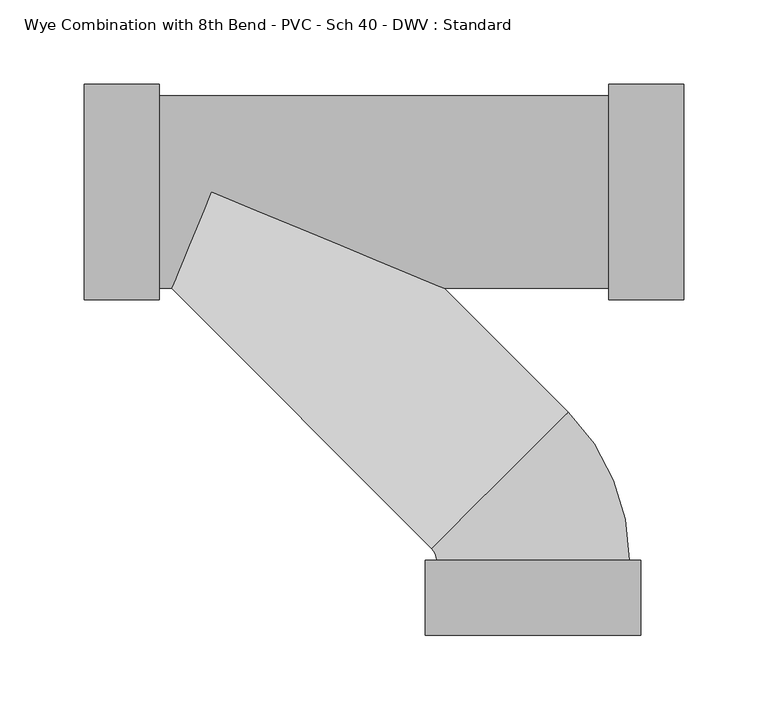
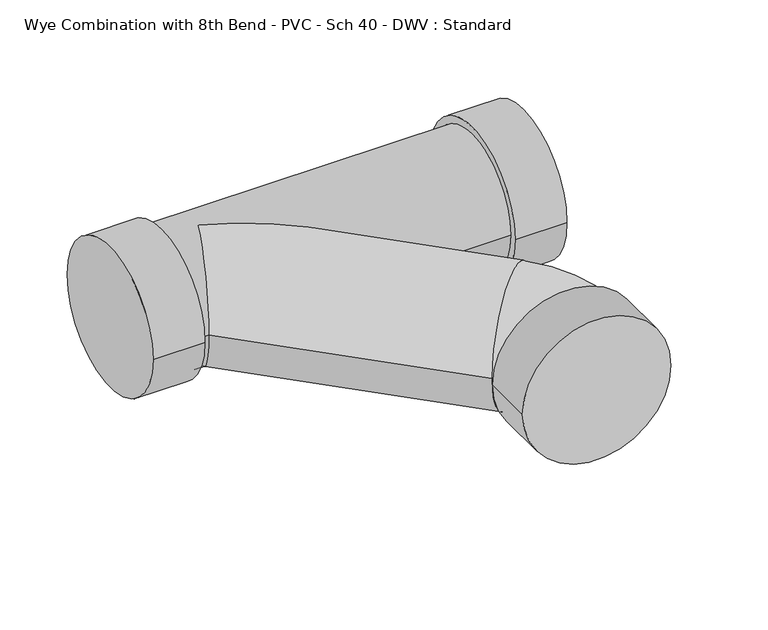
"""IFC4 building model written with IfcOpenShell, lengths in millimetres: pipe fitting geometry, Wye Combination with 8th Bend - PVC - Sch 40 - DWV : Standard."""

from ifc_helpers import new_model, si_unit, point, frame, origin, place, context, project, spatial, circle_curve, ellipse_curve, trimmed, source, transform, mapped, element, save
from ifc_brep_helpers import plane_surface, cylinder_surface, revolved_surface, advanced_brep


def wye_combination_with_8th_bend_pvc_sch_40_dwv_standard_7e54e68b(model_context):
    return source(origin(), model_context, "Body", "AdvancedBrep", [
        advanced_brep(
        [(-265.9101125, -63.754, 0.0), (-265.9101125, 63.754, 0.0), (-221.4601125, -63.754, 0.0), (-221.4601125, 63.754, 0.0), (-221.4601125, -57.15, 0.0), (-221.4601125, 57.15, 0.0), (44.8334875, 57.15, 0.0), (-214.2352808, -57.15, 0.0), (-190.5629757, 0.0, 57.15), (-52.5906706, -57.15, 0.0), (44.8334875, -57.15, 0.0), (-190.5629757, 0.0, -57.15), (44.8334875, -63.754, 0.0), (44.8334875, 63.754, 0.0), (89.2834875, -63.754, 0.0), (89.2834875, 63.754, 0.0), (-60.0117153, -211.3735655, 0.0), (-57.1475125, -218.2882512, 0.0), (57.1524875, -218.2869488, 0.0), (20.8105898, -130.5512604, 0.0), (-63.7515125, -218.2883265, 0.0), (63.7564875, -218.2868735, 0.0), (-63.751006, -262.7383265, 0.0), (63.756994, -262.7368735, 0.0)],
        [
            (0, 1, circle_curve(frame((-265.9101125, 0.0, 0.0), z_axis=(-1.0, 0.0, 0.0), x_axis=(0.0, 1.0, 0.0)), 63.754)),
            (1, 0, circle_curve(frame((-265.9101125, 0.0, 0.0), z_axis=(-1.0, 0.0, 0.0), x_axis=(0.0, 1.0, 0.0)), 63.754)),
            (2, 3, circle_curve(frame((-221.4601125, 0.0, 0.0), z_axis=(1.0, 0.0, 0.0), x_axis=(0.0, 1.0, 0.0)), 63.754)),
            (3, 2, circle_curve(frame((-221.4601125, 0.0, 0.0), z_axis=(1.0, 0.0, 0.0), x_axis=(0.0, 1.0, 0.0)), 63.754)),
            (4, 5, circle_curve(frame((-221.4601125, 0.0, 0.0), z_axis=(-1.0, 0.0, 0.0), x_axis=(0.0, 1.0, 0.0)), 57.15)),
            (5, 4, circle_curve(frame((-221.4601125, 0.0, 0.0), z_axis=(-1.0, 0.0, 0.0), x_axis=(0.0, 1.0, 0.0)), 57.15)),
            (0, 2),
            (3, 1),
            (6, 5),
            (4, 7),
            (7, 8, ellipse_curve(frame((-190.5629757, 0.0, 0.0), z_axis=(-0.9238795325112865, 0.3826834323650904, 0.0), x_axis=(-0.3826834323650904, -0.9238795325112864, 0.0)), 61.8587142, 57.15)),
            (8, 9, ellipse_curve(frame((-190.5629757, 0.0, 0.0), z_axis=(0.3826834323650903, 0.9238795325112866, 0.0), x_axis=(-0.9238795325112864, 0.3826834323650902, 0.0)), 149.3401469, 57.15)),
            (9, 10),
            (10, 6, circle_curve(frame((44.8334875, 0.0, 0.0), z_axis=(-1.0, 0.0, 0.0), x_axis=(0.0, 1.0, 0.0)), 57.15)),
            (6, 10, circle_curve(frame((44.8334875, 0.0, 0.0), z_axis=(-1.0, 0.0, 0.0), x_axis=(0.0, 1.0, 0.0)), 57.15)),
            (9, 11, ellipse_curve(frame((-190.5629757, 0.0, 0.0), z_axis=(0.3826834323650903, 0.9238795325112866, 0.0), x_axis=(-0.9238795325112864, 0.3826834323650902, 0.0)), 149.3401469, 57.15)),
            (11, 7, ellipse_curve(frame((-190.5629757, 0.0, 0.0), z_axis=(-0.9238795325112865, 0.3826834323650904, 0.0), x_axis=(-0.3826834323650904, -0.9238795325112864, 0.0)), 61.8587142, 57.15)),
            (12, 13, circle_curve(frame((44.8334875, 0.0, 0.0), z_axis=(-1.0, 0.0, 0.0), x_axis=(0.0, 1.0, 0.0)), 63.754)),
            (13, 12, circle_curve(frame((44.8334875, 0.0, 0.0), z_axis=(-1.0, 0.0, 0.0), x_axis=(0.0, 1.0, 0.0)), 63.754)),
            (14, 15, circle_curve(frame((89.2834875, 0.0, 0.0), z_axis=(1.0, 0.0, 0.0), x_axis=(0.0, 1.0, 0.0)), 63.754)),
            (15, 14, circle_curve(frame((89.2834875, 0.0, 0.0), z_axis=(1.0, 0.0, 0.0), x_axis=(0.0, 1.0, 0.0)), 63.754)),
            (12, 14),
            (15, 13),
            (16, 17, circle_curve(frame((-66.9265125, -218.2883627, 0.0), z_axis=(0.0, 0.0, -1.0), x_axis=(0.9999999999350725, 1.1395394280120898e-05, 0.0)), 9.779)),
            (17, 18, circle_curve(frame((0.0024875, -218.2876, 0.0), z_axis=(-1.1395394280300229e-05, 0.9999999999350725, 0.0), x_axis=(-0.9999999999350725, -1.1395394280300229e-05, 0.0)), 57.15)),
            (18, 19, circle_curve(frame((-66.9265125, -218.2883627, 0.0), z_axis=(0.0, 0.0, 1.0), x_axis=(0.9999999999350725, 1.1395394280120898e-05, 0.0)), 124.079)),
            (19, 16, circle_curve(frame((-19.6005628, -170.9624129, 0.0), z_axis=(0.70710678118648, -0.707106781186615, 0.0), x_axis=(-0.707106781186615, -0.70710678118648, 0.0)), 57.15)),
            (16, 19, circle_curve(frame((-19.6005628, -170.9624129, 0.0), z_axis=(0.7071067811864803, -0.7071067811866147, 0.0), x_axis=(-0.7071067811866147, -0.7071067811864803, 0.0)), 57.15)),
            (18, 17, circle_curve(frame((0.0024875, -218.2876, 0.0), z_axis=(-1.1395394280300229e-05, 0.9999999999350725, 0.0), x_axis=(-0.9999999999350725, -1.1395394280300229e-05, 0.0)), 57.15)),
            (19, 9),
            (7, 16),
            (20, 21, circle_curve(frame((0.0024875, -218.2876, 0.0), z_axis=(-1.1395394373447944e-05, 0.9999999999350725, 0.0), x_axis=(0.9999999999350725, 1.1395394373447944e-05, 0.0)), 63.754)),
            (21, 20, circle_curve(frame((0.0024875, -218.2876, 0.0), z_axis=(-1.1395394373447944e-05, 0.9999999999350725, 0.0), x_axis=(0.9999999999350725, 1.1395394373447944e-05, 0.0)), 63.754)),
            (22, 23, circle_curve(frame((0.002994, -262.7376, 0.0), z_axis=(1.1395394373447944e-05, -0.9999999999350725, 0.0), x_axis=(0.9999999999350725, 1.1395394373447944e-05, 0.0)), 63.754)),
            (23, 22, circle_curve(frame((0.002994, -262.7376, 0.0), z_axis=(1.1395394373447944e-05, -0.9999999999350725, 0.0), x_axis=(0.9999999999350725, 1.1395394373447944e-05, 0.0)), 63.754)),
            (20, 22),
            (23, 21),
        ],
        [
            plane_surface(frame((-265.9101125, 0.0, 0.0), z_axis=(-1.0, 0.0, 0.0), x_axis=(0.0, 0.0, 1.0))),
            plane_surface(frame((-221.4601125, 0.0, 0.0), z_axis=(1.0, 0.0, 0.0), x_axis=(0.0, 0.0, 1.0))),
            cylinder_surface(frame((-265.9101125, 0.0, 0.0), z_axis=(-1.0, 0.0, 0.0), x_axis=(0.0, 1.0, 0.0)), 63.754),
            cylinder_surface(frame((-221.4601125, 0.0, 0.0), z_axis=(-1.0, 0.0, 0.0), x_axis=(0.0, 1.0, 0.0)), 57.15),
            plane_surface(frame((44.8334875, 0.0, 0.0), z_axis=(-1.0, 0.0, 0.0), x_axis=(0.0, 0.0, 1.0))),
            plane_surface(frame((89.2834875, 0.0, 0.0), z_axis=(1.0, 0.0, 0.0), x_axis=(0.0, 0.0, 1.0))),
            cylinder_surface(frame((44.8334875, 0.0, 0.0), z_axis=(-1.0, 0.0, 0.0), x_axis=(0.0, 1.0, 0.0)), 63.754),
            revolved_surface(trimmed(ellipse_curve(frame((0.0024875, -218.2876, 0.0), z_axis=(1.1395394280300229e-05, -0.9999999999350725, 0.0), x_axis=(-0.9999999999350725, -1.1395394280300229e-05, 0.0)), 57.15, 57.15), [point((57.1524875, -218.2869488, 0.0))], [point((-57.1475125, -218.2882512, 0.0))], True, "CARTESIAN"), (-66.9265125, -218.2883627, 0.0), (0.0, 0.0, 1.0)),
            revolved_surface(trimmed(ellipse_curve(frame((0.0024875, -218.2876, 0.0), z_axis=(1.1395394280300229e-05, -0.9999999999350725, 0.0), x_axis=(-0.9999999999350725, -1.1395394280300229e-05, 0.0)), 57.15, 57.15), [point((-57.1475125, -218.2882512, 0.0))], [point((57.1524875, -218.2869488, 0.0))], True, "CARTESIAN"), (-66.9265125, -218.2883627, 0.0), (0.0, 0.0, 1.0)),
            cylinder_surface(frame((-19.6005628, -170.9624129, 0.0), z_axis=(0.7071067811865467, -0.7071067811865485, 0.0), x_axis=(-0.7071067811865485, -0.7071067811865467, 0.0)), 57.15),
            plane_surface(frame((0.0024875, -218.2876, 0.0), z_axis=(-1.1395394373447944e-05, 0.9999999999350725, 0.0), x_axis=(0.0, 0.0, 1.0))),
            plane_surface(frame((0.002994, -262.7376, 0.0), z_axis=(1.1395394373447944e-05, -0.9999999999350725, 0.0), x_axis=(0.0, 0.0, 1.0))),
            cylinder_surface(frame((0.0024875, -218.2876, 0.0), z_axis=(-1.1395394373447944e-05, 0.9999999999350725, 0.0), x_axis=(0.9999999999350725, 1.1395394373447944e-05, 0.0)), 63.754),
        ],
        [
            (0, [[1, 2]]),
            (1, [[3, 4], [5, 6]]),
            (2, [[-1, 7, -4, 8]]),
            (2, [[-2, -8, -3, -7]]),
            (3, [[9, -5, 10, 11, 12, 13, 14]]),
            (3, [[-9, 15, -13, 16, 17, -10, -6]]),
            (4, [[18, 19], [-14, -15]]),
            (5, [[20, 21]]),
            (6, [[-18, 22, -21, 23]]),
            (6, [[-19, -23, -20, -22]]),
            (7, [[24, 25, 26, 27]]),
            (8, [[-24, 28, -26, 29]]),
            (9, [[-27, 30, -12, -11, 31]]),
            (9, [[-28, -31, -17, -16, -30]]),
            (10, [[32, 33], [-25, -29]]),
            (11, [[34, 35]]),
            (12, [[-32, 36, -35, 37]]),
            (12, [[-33, -37, -34, -36]]),
        ],
    ),
    ])


if __name__ == "__main__":
    model = new_model("IFC4")
    model_context = context("Model", 3, world=origin())
    ifc_project = project(units=[si_unit("LENGTHUNIT", "METRE", prefix="MILLI")], contexts=[model_context])
    site = spatial("IfcSite", under=ifc_project)
    building = spatial("IfcBuilding", under=site)
    placement = place(None, origin())
    wye_combination_with_8th_bend_pvc_sch_40_dwv_standard_shape = wye_combination_with_8th_bend_pvc_sch_40_dwv_standard_7e54e68b(model_context)
    element("IfcPipeFitting", 1, ObjectType="Wye Combination with 8th Bend - PVC - Sch 40 - DWV : Standard", at=placement, inside=building, context=model_context, shape_type="MappedRepresentation", body=[
        mapped(wye_combination_with_8th_bend_pvc_sch_40_dwv_standard_shape, transform((0.0, 0.0, 0.0), x_axis=(1.0, 0.0, 0.0), y_axis=(0.0, 1.0, 0.0), z_axis=(0.0, 0.0, 1.0))),
    ])
    save(model, "model.ifc")
